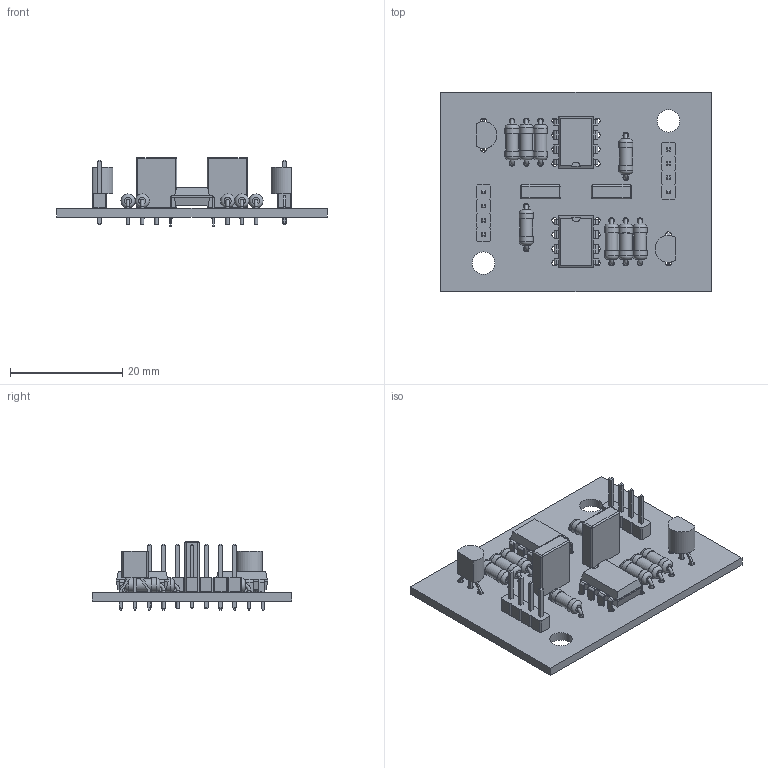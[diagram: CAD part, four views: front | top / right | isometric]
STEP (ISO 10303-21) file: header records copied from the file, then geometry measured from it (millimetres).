
FILE_DESCRIPTION(('KiCad electronic assembly'),'2;1');
FILE_NAME('Isolation.step','2021-02-11T11:13:55',('An Author'),( 'A Company'),'Open CASCADE STEP processor 6.9', 'KiCad to STEP converter','Unknown');
FILE_SCHEMA(('AUTOMOTIVE_DESIGN { 1 0 10303 214 1 1 1 1 }'));
Length unit declared in the file: millimetre
Products named in the file (12): Open CASCADE STEP translator 6.9 1; DIP-8_W7.62mm; SOLID; R_Axial_DIN0207_L6.3mm_D2.5mm_P7.62mm_Horizontal; TO-92_Inline_Wide; PinHeader_1x04_P2.54mm_Vertical; C_Rect_L7.2mm_W2.5mm_P5.00mm_FKS2_FKP2_MKS2_MKP2; COMPOUND
Assembly tree (22 placements, depth 3):
  Open CASCADE STEP translator 6.9 1
    DIP-8_W7.62mm  x2
      SOLID
    R_Axial_DIN0207_L6.3mm_D2.5mm_P7.62mm_Horizontal  x8
      SOLID
    TO-92_Inline_Wide  x2
      SOLID
    PinHeader_1x04_P2.54mm_Vertical  x2
      SOLID
    C_Rect_L7.2mm_W2.5mm_P5.00mm_FKS2_FKP2_MKS2_MKP2  x2
      SOLID
    COMPOUND
Bounding box: 48.26 x 35.56 x 12.3 mm (x, y, z)
Volume: 3881.5 mm3; surface area: 6117.3 mm2
Topology: 17 solids, 17 shells, 772 faces, 1844 edges, 1156 vertices
Faces by surface type: plane 544, cylinder 148, bspline 40, torus 32, sphere 8
Full cylindrical faces by diameter (mm): 0.5 x4, 0.6 x16, 1 x50, 2.25 x8, 2.5 x16, 4 x2
Entity records: 28009 total; most frequent: CARTESIAN_POINT 6342, DIRECTION 3615, LINE 2379, VECTOR 2379, ORIENTED_EDGE 1866, PCURVE 1866, DEFINITIONAL_REPRESENTATION 1866, EDGE_CURVE 933
